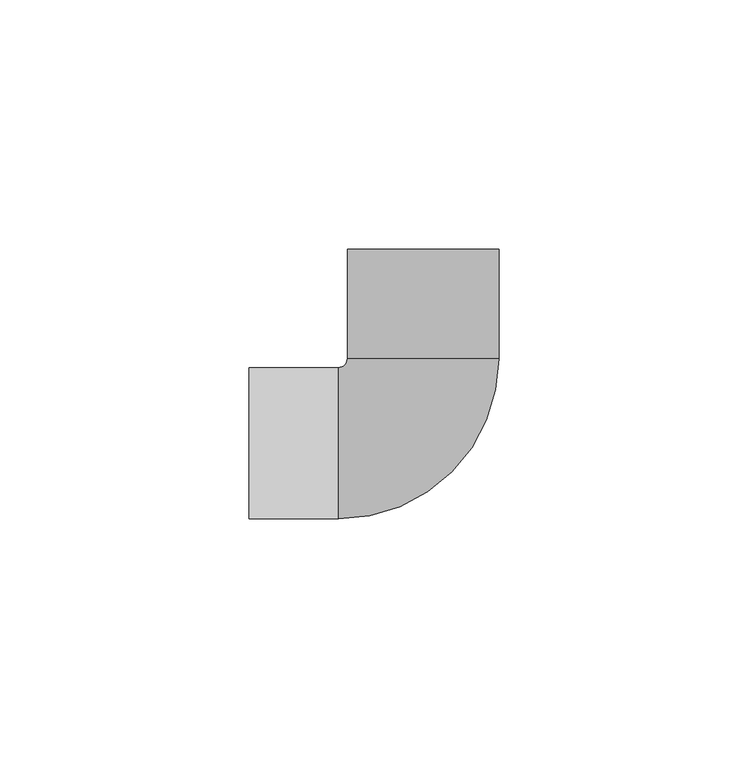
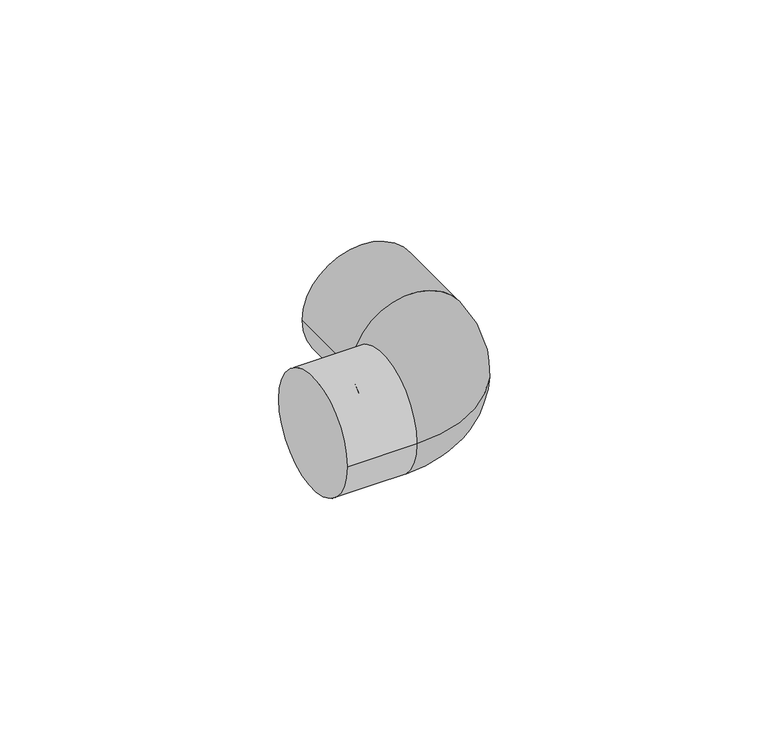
"""IFC4 building model written with IfcOpenShell, lengths in millimetres: pipe fitting geometry, 01101002 : Codos 90º."""

from ifc_helpers import new_model, si_unit, point, frame, origin, place, context, project, spatial, circle_curve, ellipse_curve, trimmed, source, transform, mapped, element, save
from ifc_brep_helpers import plane_surface, cylinder_surface, revolved_surface, advanced_brep


def pipe_fitting_17110fbb(model_context):
    return source(origin(), model_context, "Body", "AdvancedBrep", [
        advanced_brep(
        [(-17.0, -15.2, 0.0), (15.2, 17.0, 0.0), (-15.2, 17.0, 0.0), (-17.0, 15.2, 0.0), (-15.2, 39.0, 0.0), (15.2, 39.0, 0.0), (-35.0, 15.2, 0.0), (-35.0, -15.2, 0.0)],
        [
            (0, 1, circle_curve(frame((-17.0, 17.0, 0.0), z_axis=(0.0, 0.0, 1.0), x_axis=(1.0, 0.0, 0.0)), 32.2)),
            (1, 2, circle_curve(frame((0.0, 17.0, 0.0), z_axis=(0.0, -1.0, 0.0), x_axis=(1.0, 0.0, 0.0)), 15.2)),
            (2, 3, circle_curve(frame((-17.0, 17.0, 0.0), z_axis=(0.0, 0.0, -1.0), x_axis=(1.0, 0.0, 0.0)), 1.8)),
            (3, 0, circle_curve(frame((-17.0, 0.0, 0.0), z_axis=(1.0, 0.0, 0.0), x_axis=(0.0, -1.0, 0.0)), 15.2)),
            (2, 1, circle_curve(frame((0.0, 17.0, 0.0), z_axis=(0.0, -1.0, 0.0), x_axis=(1.0, 0.0, 0.0)), 15.2)),
            (0, 3, circle_curve(frame((-17.0, 0.0, 0.0), z_axis=(1.0, 0.0, 0.0), x_axis=(0.0, -1.0, 0.0)), 15.2)),
            (4, 5, circle_curve(frame((0.0, 39.0, 0.0), z_axis=(0.0, 1.0, 0.0), x_axis=(1.0, 0.0, 0.0)), 15.2)),
            (5, 4, circle_curve(frame((0.0, 39.0, 0.0), z_axis=(0.0, 1.0, 0.0), x_axis=(1.0, 0.0, 0.0)), 15.2)),
            (6, 7, circle_curve(frame((-35.0, 0.0, 0.0), z_axis=(-1.0, 0.0, 0.0), x_axis=(0.0, -1.0, 0.0)), 15.2)),
            (7, 6, circle_curve(frame((-35.0, 0.0, 0.0), z_axis=(-1.0, 0.0, 0.0), x_axis=(0.0, -1.0, 0.0)), 15.2)),
            (3, 6),
            (7, 0),
            (4, 2),
            (1, 5),
        ],
        [
            revolved_surface(trimmed(ellipse_curve(frame((0.0, 17.0, 0.0), z_axis=(0.0, 1.0, 0.0), x_axis=(1.0, 0.0, 0.0)), 15.2, 15.2), [point((-15.2, 17.0, 0.0))], [point((15.2, 17.0, 0.0))], True, "CARTESIAN"), (-17.0, 17.0, 0.0), (0.0, 0.0, -1.0)),
            revolved_surface(trimmed(ellipse_curve(frame((0.0, 17.0, 0.0), z_axis=(0.0, 1.0, 0.0), x_axis=(1.0, 0.0, 0.0)), 15.2, 15.2), [point((15.2, 17.0, 0.0))], [point((-15.2, 17.0, 0.0))], True, "CARTESIAN"), (-17.0, 17.0, 0.0), (0.0, 0.0, -1.0)),
            plane_surface(frame((0.0, 39.0, 0.0), z_axis=(0.0, 1.0, 0.0), x_axis=(0.0, 0.0, 1.0))),
            plane_surface(frame((-35.0, 0.0, 0.0), z_axis=(-1.0, 0.0, 0.0), x_axis=(0.0, 0.0, 1.0))),
            cylinder_surface(frame((-17.0, 0.0, 0.0), z_axis=(1.0, 0.0, 0.0), x_axis=(0.0, -1.0, 0.0)), 15.2),
            cylinder_surface(frame((0.0, 39.0, 0.0), z_axis=(0.0, 1.0, 0.0), x_axis=(1.0, 0.0, 0.0)), 15.2),
        ],
        [
            (0, [[1, 2, 3, 4]]),
            (1, [[-3, 5, -1, 6]]),
            (2, [[7, 8]]),
            (3, [[9, 10]]),
            (4, [[-4, 11, -10, 12]]),
            (4, [[-6, -12, -9, -11]]),
            (5, [[-7, 13, -2, 14]]),
            (5, [[-8, -14, -5, -13]]),
        ],
    ),
    ])


if __name__ == "__main__":
    model = new_model("IFC4")
    model_context = context("Model", 3, world=origin())
    ifc_project = project(units=[si_unit("LENGTHUNIT", "METRE", prefix="MILLI")], contexts=[model_context])
    site = spatial("IfcSite", under=ifc_project)
    building = spatial("IfcBuilding", under=site)
    placement = place(None, origin())
    pipe_fitting_shape = pipe_fitting_17110fbb(model_context)
    element("IfcPipeFitting", 1, ObjectType="01101002 : Codos 90º", at=placement, inside=building, context=model_context, shape_type="MappedRepresentation", body=[
        mapped(pipe_fitting_shape, transform((0.0, 0.0, 0.0), x_axis=(1.0, 0.0, 0.0), y_axis=(0.0, 1.0, 0.0), z_axis=(0.0, 0.0, 1.0))),
    ])
    save(model, "model.ifc")
